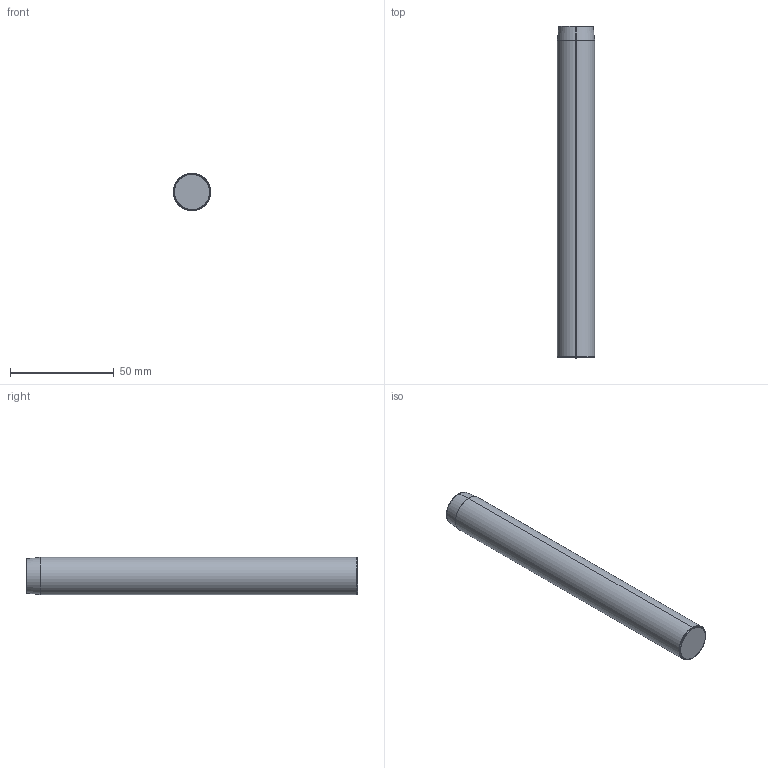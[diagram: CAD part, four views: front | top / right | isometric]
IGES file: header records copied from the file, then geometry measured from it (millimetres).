
Start section: SolidWorks IGES file using analytic representation for surfaces
Global section: file name: C:\Documents and Settings\kalite-mail\Desktop\IGS\D09\D09 18X160.IGS; native system: SolidWorks 2008; preprocessor: SolidWorks 2008; author: kalite-mail; date: 080707.122833; units: millimetre
Bounding box: 18 x 160 x 18 mm (x, y, z)
Surface area: 9478.5 mm2 (no closed solid volume)
Topology: 0 solids, 0 shells, 20 faces, 136 edges, 136 vertices
Faces by surface type: bspline 12, revolution 8
